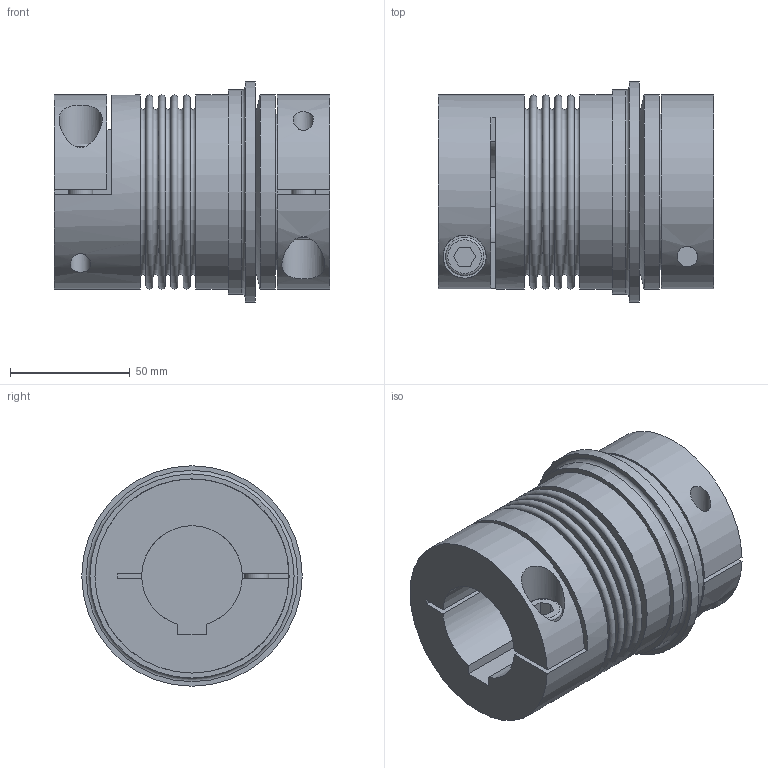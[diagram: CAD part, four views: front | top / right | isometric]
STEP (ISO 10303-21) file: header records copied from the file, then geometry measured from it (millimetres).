
FILE_DESCRIPTION(/* description */ ('STEP AP214'),/* implementation_level */ '2;1');
FILE_NAME(/* name */ 'C:\Diequa Files\DieQua Coupling\TB2\STP\TB2.80.115.WDG.#.#.stp',/* time_stamp */ '2019-04-26T10:41:46-05:00',/* author */ ('DiequaCAD'),/* organization */ (''),/* preprocessor_version */ 'ST-DEVELOPER v18',/* originating_system */ 'Autodesk Inventor 2020',/* authorisation */ ' ');
FILE_SCHEMA (('AUTOMOTIVE_DESIGN { 1 0 10303 214 3 1 1 }'));
Length unit declared in the file: millimetre
Products named in the file (1): TB2.80.115.WDG.#.#
Bounding box: 115 x 92 x 92 mm (x, y, z)
Volume: 469558.5 mm3; surface area: 80546.1 mm2
Topology: 1 solids, 1 shells, 90 faces, 212 edges, 148 vertices
Faces by surface type: plane 57, cylinder 20, torus 12, cone 1
Full cylindrical faces by diameter (mm): 8.5 x2, 10 x2, 11 x2, 16 x2, 18 x2, 65 x1, 81 x3, 85.2 x1, 92 x1
Entity records: 2857 total; most frequent: CARTESIAN_POINT 603, DIRECTION 491, ORIENTED_EDGE 424, EDGE_CURVE 212, AXIS2_PLACEMENT_3D 194, VERTEX_POINT 148, EDGE_LOOP 118, LINE 103
